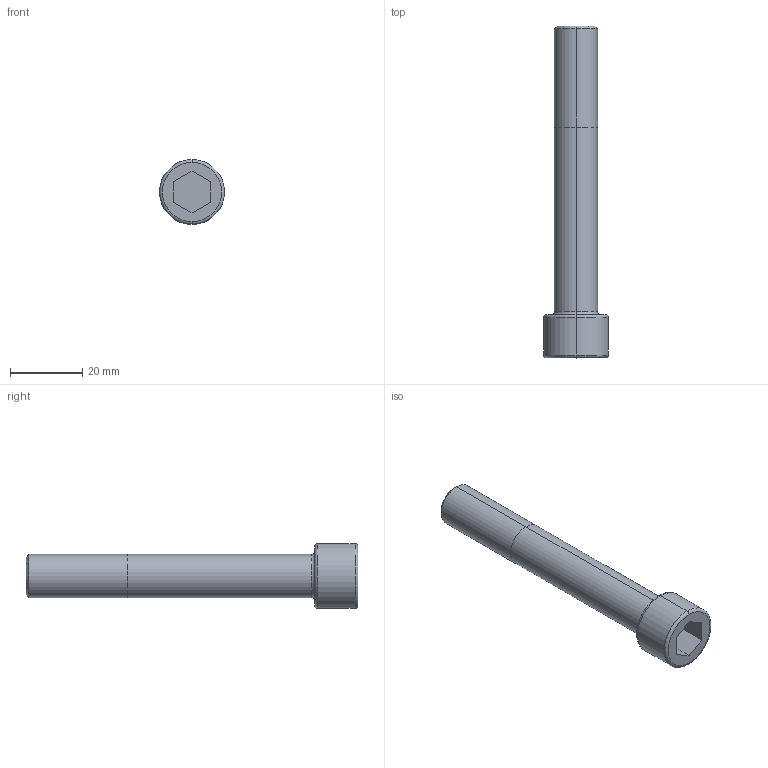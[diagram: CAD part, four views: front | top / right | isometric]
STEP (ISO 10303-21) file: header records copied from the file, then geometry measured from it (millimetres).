
FILE_DESCRIPTION (( 'STEP AP214' ), '1' );
FILE_NAME ('M_12X080.STEP', '2016-03-08T00:40:24', ( '' ), ( '' ), 'SwSTEP 2.0', 'SolidWorks 2014', '' );
FILE_SCHEMA (( 'AUTOMOTIVE_DESIGN' ));
Length unit declared in the file: millimetre
Products named in the file (1): M_12X080
Bounding box: 18 x 92 x 18 mm (x, y, z)
Volume: 11214.9 mm3; surface area: 4479.5 mm2
Topology: 1 solids, 1 shells, 25 faces, 52 edges, 32 vertices
Faces by surface type: plane 11, torus 6, cylinder 6, cone 2
Entity records: 746 total; most frequent: DIRECTION 130, CARTESIAN_POINT 110, ORIENTED_EDGE 104, AXIS2_PLACEMENT_3D 52, EDGE_CURVE 52, VERTEX_POINT 32, EDGE_LOOP 28, LINE 26
